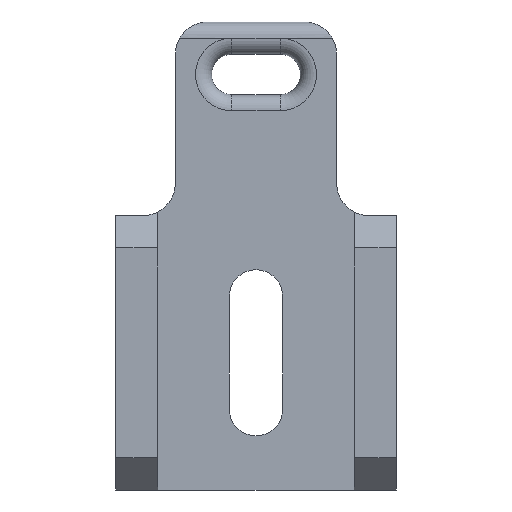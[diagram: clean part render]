
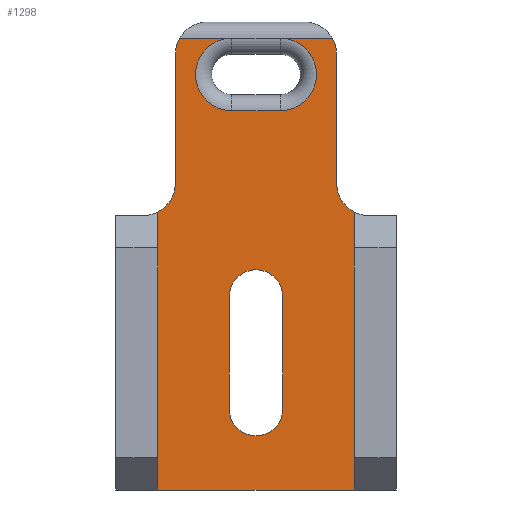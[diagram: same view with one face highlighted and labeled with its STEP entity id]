
A CAD part, front view. The second image highlights one B-rep face of the part: STEP entity #1298.
In plain terms, the highlighted planar face has unit normal (0, -1, 0).
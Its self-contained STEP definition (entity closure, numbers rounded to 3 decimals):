
#79=AXIS2_PLACEMENT_3D('Circle Axis2P3D',#77,#78,$) ;
#110=AXIS2_PLACEMENT_3D('Circle Axis2P3D',#108,#109,$) ;
#545=AXIS2_PLACEMENT_3D('Circle Axis2P3D',#543,#544,$) ;
#815=AXIS2_PLACEMENT_3D('Circle Axis2P3D',#813,#814,$) ;
#1081=AXIS2_PLACEMENT_3D('Circle Axis2P3D',#1079,#1080,$) ;
#1129=AXIS2_PLACEMENT_3D('Circle Axis2P3D',#1127,#1128,$) ;
#1250=AXIS2_PLACEMENT_3D('Plane Axis2P3D',#1247,#1248,#1249) ;
#1268=AXIS2_PLACEMENT_3D('Circle Axis2P3D',#1266,#1267,$) ;
#1273=AXIS2_PLACEMENT_3D('Circle Axis2P3D',#1271,#1272,$) ;
#37=CARTESIAN_POINT('Line Origine',(1.65,-18.,11.5)) ;
#41=CARTESIAN_POINT('Vertex',(1.65,-18.,8.)) ;
#43=CARTESIAN_POINT('Vertex',(1.65,-18.,15.)) ;
#77=CARTESIAN_POINT('Axis2P3D Location',(0.,-18.,8.)) ;
#81=CARTESIAN_POINT('Vertex',(-1.65,-18.,8.)) ;
#108=CARTESIAN_POINT('Axis2P3D Location',(0.,-18.,15.)) ;
#112=CARTESIAN_POINT('Vertex',(-1.65,-18.,15.)) ;
#139=CARTESIAN_POINT('Line Origine',(-1.65,-18.,11.5)) ;
#438=CARTESIAN_POINT('Line Origine',(6.1,-18.,11.607)) ;
#442=CARTESIAN_POINT('Vertex',(6.1,-18.,3.)) ;
#444=CARTESIAN_POINT('Vertex',(6.1,-18.,20.214)) ;
#538=CARTESIAN_POINT('Vertex',(5.,-18.,22.)) ;
#543=CARTESIAN_POINT('Axis2P3D Location',(7.,-18.,22.)) ;
#580=CARTESIAN_POINT('Line Origine',(0.,-18.,3.)) ;
#584=CARTESIAN_POINT('Vertex',(-6.1,-18.,3.)) ;
#624=CARTESIAN_POINT('Line Origine',(5.,-18.,26.)) ;
#628=CARTESIAN_POINT('Vertex',(5.,-18.,30.)) ;
#688=CARTESIAN_POINT('Line Origine',(-6.1,-18.,11.607)) ;
#692=CARTESIAN_POINT('Vertex',(-6.1,-18.,20.214)) ;
#777=CARTESIAN_POINT('Vertex',(-5.,-18.,22.)) ;
#782=CARTESIAN_POINT('Line Origine',(-5.,-18.,26.)) ;
#786=CARTESIAN_POINT('Vertex',(-5.,-18.,30.)) ;
#813=CARTESIAN_POINT('Axis2P3D Location',(-7.,-18.,22.)) ;
#1069=CARTESIAN_POINT('Vertex',(1.5,-18.,31.)) ;
#1076=CARTESIAN_POINT('Vertex',(1.5,-18.,26.5)) ;
#1079=CARTESIAN_POINT('Axis2P3D Location',(1.5,-18.,28.75)) ;
#1100=CARTESIAN_POINT('Vertex',(-1.5,-18.,26.5)) ;
#1103=CARTESIAN_POINT('Line Origine',(0.,-18.,26.5)) ;
#1124=CARTESIAN_POINT('Vertex',(-1.5,-18.,31.)) ;
#1127=CARTESIAN_POINT('Axis2P3D Location',(-1.5,-18.,28.75)) ;
#1247=CARTESIAN_POINT('Axis2P3D Location',(6.1,-18.,0.)) ;
#1252=CARTESIAN_POINT('Line Origine',(3.116,-18.,31.)) ;
#1256=CARTESIAN_POINT('Vertex',(4.732,-18.,31.)) ;
#1259=CARTESIAN_POINT('Line Origine',(-3.116,-18.,31.)) ;
#1263=CARTESIAN_POINT('Vertex',(-4.732,-18.,31.)) ;
#1266=CARTESIAN_POINT('Axis2P3D Location',(-3.,-18.,30.)) ;
#1271=CARTESIAN_POINT('Axis2P3D Location',(3.,-18.,30.)) ;
#38=DIRECTION('Vector Direction',(0.,0.,1.)) ;
#78=DIRECTION('Axis2P3D Direction',(0.,1.,0.)) ;
#109=DIRECTION('Axis2P3D Direction',(0.,1.,0.)) ;
#140=DIRECTION('Vector Direction',(0.,0.,-1.)) ;
#439=DIRECTION('Vector Direction',(0.,0.,-1.)) ;
#544=DIRECTION('Axis2P3D Direction',(0.,-1.,0.)) ;
#581=DIRECTION('Vector Direction',(-1.,0.,0.)) ;
#625=DIRECTION('Vector Direction',(0.,0.,1.)) ;
#689=DIRECTION('Vector Direction',(0.,0.,-1.)) ;
#783=DIRECTION('Vector Direction',(0.,0.,1.)) ;
#814=DIRECTION('Axis2P3D Direction',(0.,-1.,0.)) ;
#1080=DIRECTION('Axis2P3D Direction',(0.,1.,-0.)) ;
#1104=DIRECTION('Vector Direction',(1.,0.,0.)) ;
#1128=DIRECTION('Axis2P3D Direction',(-0.,1.,0.)) ;
#1248=DIRECTION('Axis2P3D Direction',(0.,1.,-0.)) ;
#1249=DIRECTION('Axis2P3D XDirection',(-1.,0.,0.)) ;
#1253=DIRECTION('Vector Direction',(-1.,0.,0.)) ;
#1260=DIRECTION('Vector Direction',(-1.,0.,0.)) ;
#1267=DIRECTION('Axis2P3D Direction',(0.,1.,-0.)) ;
#1272=DIRECTION('Axis2P3D Direction',(0.,1.,-0.)) ;
#39=VECTOR('Line Direction',#38,1.) ;
#141=VECTOR('Line Direction',#140,1.) ;
#440=VECTOR('Line Direction',#439,1.) ;
#582=VECTOR('Line Direction',#581,1.) ;
#626=VECTOR('Line Direction',#625,1.) ;
#690=VECTOR('Line Direction',#689,1.) ;
#784=VECTOR('Line Direction',#783,1.) ;
#1105=VECTOR('Line Direction',#1104,1.) ;
#1254=VECTOR('Line Direction',#1253,1.) ;
#1261=VECTOR('Line Direction',#1260,1.) ;
#1277=ORIENTED_EDGE('',*,*,#1258,.T.) ;
#1278=ORIENTED_EDGE('',*,*,#1083,.T.) ;
#1279=ORIENTED_EDGE('',*,*,#1107,.T.) ;
#1280=ORIENTED_EDGE('',*,*,#1131,.T.) ;
#1281=ORIENTED_EDGE('',*,*,#1265,.T.) ;
#1282=ORIENTED_EDGE('',*,*,#1270,.F.) ;
#1283=ORIENTED_EDGE('',*,*,#788,.F.) ;
#1284=ORIENTED_EDGE('',*,*,#817,.T.) ;
#1285=ORIENTED_EDGE('',*,*,#694,.T.) ;
#1286=ORIENTED_EDGE('',*,*,#586,.T.) ;
#1287=ORIENTED_EDGE('',*,*,#446,.T.) ;
#1288=ORIENTED_EDGE('',*,*,#547,.T.) ;
#1289=ORIENTED_EDGE('',*,*,#630,.T.) ;
#1290=ORIENTED_EDGE('',*,*,#1275,.F.) ;
#1293=ORIENTED_EDGE('',*,*,#143,.F.) ;
#1294=ORIENTED_EDGE('',*,*,#114,.T.) ;
#1295=ORIENTED_EDGE('',*,*,#45,.F.) ;
#1296=ORIENTED_EDGE('',*,*,#83,.T.) ;
#1297=FACE_BOUND('',#1292,.T.) ;
#1298=ADVANCED_FACE('v1',(#1291,#1297),#1251,.F.) ;
#80=CIRCLE('generated circle',#79,1.65) ;
#111=CIRCLE('generated circle',#110,1.65) ;
#546=CIRCLE('generated circle',#545,2.) ;
#816=CIRCLE('generated circle',#815,2.) ;
#1082=CIRCLE('generated circle',#1081,2.25) ;
#1130=CIRCLE('generated circle',#1129,2.25) ;
#1269=CIRCLE('generated circle',#1268,2.) ;
#1274=CIRCLE('generated circle',#1273,2.) ;
#45=EDGE_CURVE('',#42,#44,#40,.T.) ;
#83=EDGE_CURVE('',#42,#82,#80,.T.) ;
#114=EDGE_CURVE('',#113,#44,#111,.T.) ;
#143=EDGE_CURVE('',#113,#82,#142,.T.) ;
#446=EDGE_CURVE('',#443,#445,#441,.F.) ;
#547=EDGE_CURVE('',#445,#539,#546,.F.) ;
#586=EDGE_CURVE('',#585,#443,#583,.F.) ;
#630=EDGE_CURVE('',#539,#629,#627,.T.) ;
#694=EDGE_CURVE('',#693,#585,#691,.T.) ;
#788=EDGE_CURVE('',#778,#787,#785,.T.) ;
#817=EDGE_CURVE('',#778,#693,#816,.F.) ;
#1083=EDGE_CURVE('',#1070,#1077,#1082,.T.) ;
#1107=EDGE_CURVE('',#1077,#1101,#1106,.F.) ;
#1131=EDGE_CURVE('',#1101,#1125,#1130,.T.) ;
#1258=EDGE_CURVE('',#1257,#1070,#1255,.T.) ;
#1265=EDGE_CURVE('',#1125,#1264,#1262,.T.) ;
#1270=EDGE_CURVE('',#787,#1264,#1269,.T.) ;
#1275=EDGE_CURVE('',#1257,#629,#1274,.T.) ;
#1276=EDGE_LOOP('',(#1277,#1278,#1279,#1280,#1281,#1282,#1283,#1284,#1285,#1286,#1287,#1288,#1289,#1290)) ;
#1292=EDGE_LOOP('',(#1293,#1294,#1295,#1296)) ;
#1291=FACE_OUTER_BOUND('',#1276,.T.) ;
#40=LINE('Line',#37,#39) ;
#142=LINE('Line',#139,#141) ;
#441=LINE('Line',#438,#440) ;
#583=LINE('Line',#580,#582) ;
#627=LINE('Line',#624,#626) ;
#691=LINE('Line',#688,#690) ;
#785=LINE('Line',#782,#784) ;
#1106=LINE('Line',#1103,#1105) ;
#1255=LINE('Line',#1252,#1254) ;
#1262=LINE('Line',#1259,#1261) ;
#1251=PLANE('',#1250) ;
#42=VERTEX_POINT('',#41) ;
#44=VERTEX_POINT('',#43) ;
#82=VERTEX_POINT('',#81) ;
#113=VERTEX_POINT('',#112) ;
#443=VERTEX_POINT('',#442) ;
#445=VERTEX_POINT('',#444) ;
#539=VERTEX_POINT('',#538) ;
#585=VERTEX_POINT('',#584) ;
#629=VERTEX_POINT('',#628) ;
#693=VERTEX_POINT('',#692) ;
#778=VERTEX_POINT('',#777) ;
#787=VERTEX_POINT('',#786) ;
#1070=VERTEX_POINT('',#1069) ;
#1077=VERTEX_POINT('',#1076) ;
#1101=VERTEX_POINT('',#1100) ;
#1125=VERTEX_POINT('',#1124) ;
#1257=VERTEX_POINT('',#1256) ;
#1264=VERTEX_POINT('',#1263) ;
